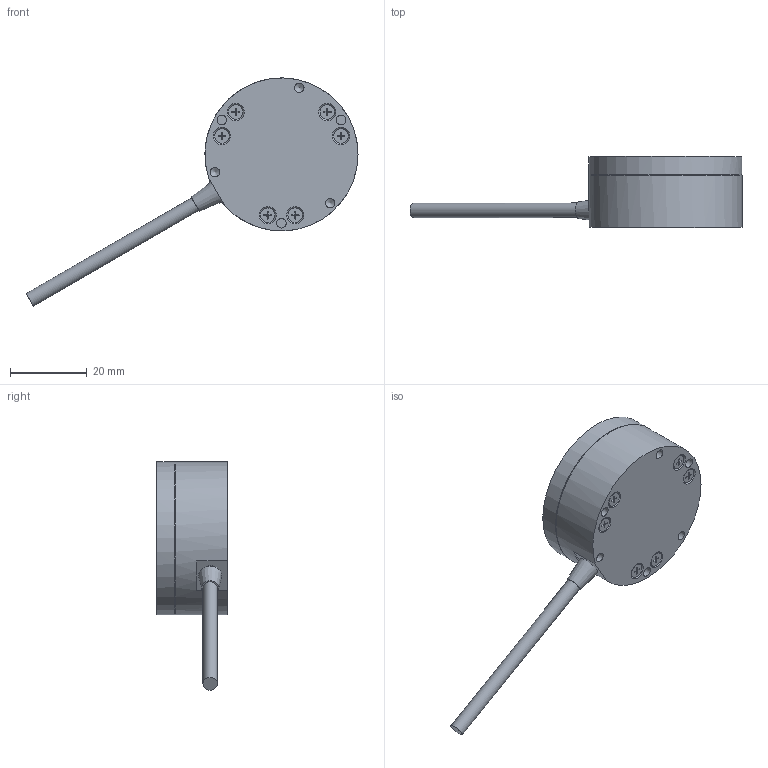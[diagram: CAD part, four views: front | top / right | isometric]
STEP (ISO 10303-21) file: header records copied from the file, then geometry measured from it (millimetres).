
FILE_DESCRIPTION((''),'2;1');
FILE_NAME('F:\외관\RFT40-SA01.stp','2018-06-07T09:46:13',('InYong'),(''),'Autodesk Inventor 2011','Autodesk Inventor 2011','');
FILE_SCHEMA(('CONFIG_CONTROL_DESIGN'));
Length unit declared in the file: millimetre
Products named in the file (5): RFT40-SA01; RFT40 BB; RFT40 TP; Mold; DIN EN ISO 7046-1 H M2 x 5 - 4.8 - H
Assembly tree (15 placements, depth 2):
  RFT40-SA01
    RFT40 BB
    RFT40 TP
    Mold
    DIN EN ISO 7046-1 H M2 x 5 - 4.8 - H  x12
Bounding box: 86.77 x 18.5 x 59.65 mm (x, y, z)
Volume: 21750.7 mm3; surface area: 10469.4 mm2
Topology: 15 solids, 15 shells, 482 faces, 1222 edges, 783 vertices
Faces by surface type: plane 178, cone 163, cylinder 77, torus 60, bspline 4
Full cylindrical faces by diameter (mm): 1.755 x12, 2 x24, 2.459 x6, 2.5 x3, 3 x3, 3.8 x13, 5 x1, 5.5 x2, 37.2 x1, 38 x1, 40 x2
Entity records: 4534 total; most frequent: CARTESIAN_POINT 986, DIRECTION 742, ORIENTED_EDGE 582, AXIS2_PLACEMENT_3D 315, EDGE_CURVE 291, EDGE_LOOP 250, VERTEX_POINT 221, FACE_OUTER_BOUND 152
